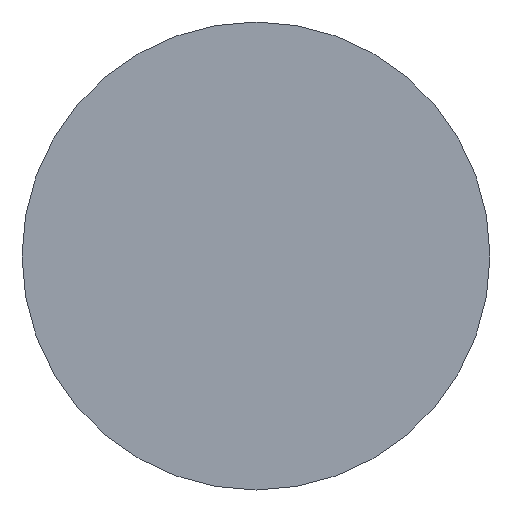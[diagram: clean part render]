
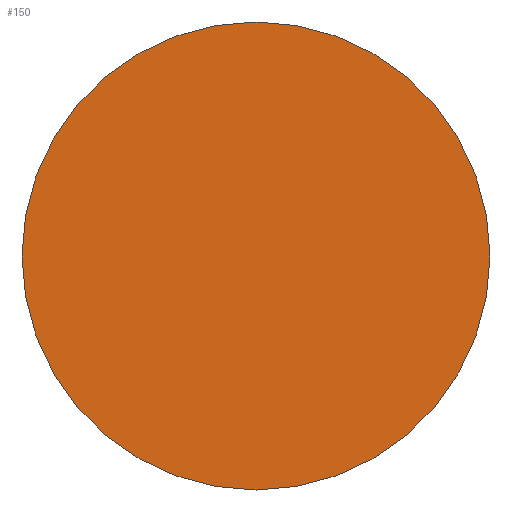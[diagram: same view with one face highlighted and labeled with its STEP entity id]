
A CAD part, left-side view. The second image highlights one B-rep face of the part: STEP entity #150.
In plain terms, the highlighted planar face has unit normal (-1, 0, 0) as drawn and (0, 0, -1) by its records, which use the part's own axes.
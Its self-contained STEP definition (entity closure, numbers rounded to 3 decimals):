
#72 = CYLINDRICAL_SURFACE('',#73,2.5);
#73 = AXIS2_PLACEMENT_3D('',#74,#75,#76);
#74 = CARTESIAN_POINT('',(0.,0.,-1.15));
#75 = DIRECTION('',(0.,0.,1.));
#76 = DIRECTION('',(1.,0.,-0.));
#97 = VERTEX_POINT('',#98);
#98 = CARTESIAN_POINT('',(2.5,0.,-1.15));
#119 = EDGE_CURVE('',#97,#97,#120,.T.);
#120 = SURFACE_CURVE('',#121,(#126,#133),.PCURVE_S1.);
#121 = CIRCLE('',#122,2.5);
#122 = AXIS2_PLACEMENT_3D('',#123,#124,#125);
#123 = CARTESIAN_POINT('',(0.,0.,-1.15));
#124 = DIRECTION('',(0.,0.,1.));
#125 = DIRECTION('',(1.,0.,-0.));
#126 = PCURVE('',#72,#127);
#127 = DEFINITIONAL_REPRESENTATION('',(#128),#132);
#128 = LINE('',#129,#130);
#129 = CARTESIAN_POINT('',(0.,0.));
#130 = VECTOR('',#131,1.);
#131 = DIRECTION('',(1.,0.));
#132 = ( GEOMETRIC_REPRESENTATION_CONTEXT(2) 
PARAMETRIC_REPRESENTATION_CONTEXT() REPRESENTATION_CONTEXT('2D SPACE',''
  ) );
#133 = PCURVE('',#134,#139);
#134 = PLANE('',#135);
#135 = AXIS2_PLACEMENT_3D('',#136,#137,#138);
#136 = CARTESIAN_POINT('',(0.,0.,-1.15));
#137 = DIRECTION('',(0.,0.,1.));
#138 = DIRECTION('',(1.,0.,-0.));
#139 = DEFINITIONAL_REPRESENTATION('',(#140),#144);
#140 = CIRCLE('',#141,2.5);
#141 = AXIS2_PLACEMENT_2D('',#142,#143);
#142 = CARTESIAN_POINT('',(0.,0.));
#143 = DIRECTION('',(1.,0.));
#144 = ( GEOMETRIC_REPRESENTATION_CONTEXT(2) 
PARAMETRIC_REPRESENTATION_CONTEXT() REPRESENTATION_CONTEXT('2D SPACE',''
  ) );
#150 = ADVANCED_FACE('',(#151),#134,.F.);
#151 = FACE_BOUND('',#152,.T.);
#152 = EDGE_LOOP('',(#153));
#153 = ORIENTED_EDGE('',*,*,#119,.F.);
